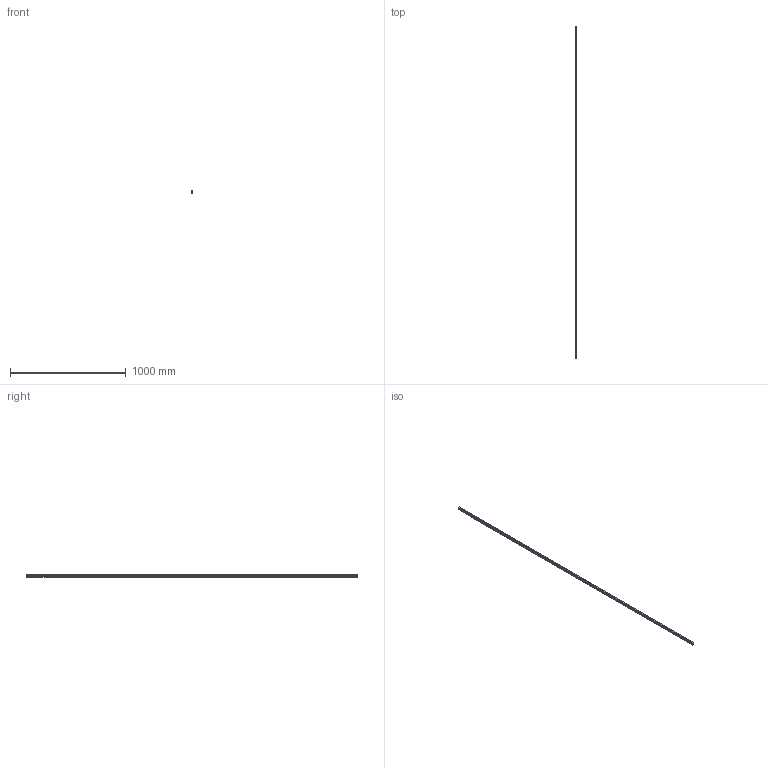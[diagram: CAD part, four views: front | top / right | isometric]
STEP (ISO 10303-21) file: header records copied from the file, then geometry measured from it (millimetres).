
FILE_DESCRIPTION (( 'STEP AP214' ), '1' );
FILE_NAME ('TPL-W-APC-523-U 15Oct2024.STEP', '2024-12-08T23:19:46', ( '' ), ( '' ), 'SwSTEP 2.0', 'SolidWorks 2023', '' );
FILE_SCHEMA (( 'AUTOMOTIVE_DESIGN' ));
Length unit declared in the file: millimetre
Products named in the file (19): Copy of Handle sub-assembly - simplified^Copy of TPGen2 handle keyed internal - simplified_TPL-W-APC-010 11Oct2024; Copy of TPL-036 Lock cylinder double key C4 3-5 PIN 55 (23-32)mm^TPL-W-APC-010 11Oct2024_Right; Copy of COV-115-A Cover A suit TPLGen2 standard range AU with hinge holes^TPL-W-APC-010 11Oct2024_1335mm; Copy of Adapter DnF - simplfied^TPL-W-APC-010 11Oct2024_26mm backset; Copy of Copy of LKC-531 Lock twinpoint transmission rod wood system^TPL-W-APC-010 11Oct2024_Standard Range 2891.7mm; Copy of COV-115-B Cover B suit TPLGen2 standard range AU with hinge holes^TPL-W-APC-010 11Oct2024_2870mm; Copy of TPLGen2 push rod - simplified^Copy of TPLGen2 lock body keyed assembly_TPL-W-APC-010 11Oct2024_Female thread M10; Copy of LKC-544 Bolt 8mm square stainless steel TPLGen2^TPL-W-APC-010 11Oct2024; Copy of LKC-531 Lock twinpoint transmission rod wood system^TPL-W-APC-010 11Oct2024_Standard Range (588.7mm); Copy of Escutcheon plate keyed internal 280mm - simplified^Copy of TPGen2 handle keyed internal - simplified_TPL-W-APC-010 11Oct2024; Copy of Adapter CnE - simplfied^TPL-W-APC-010 11Oct2024_26mm backset; Copy of Escutcheon plate keyed external 280mm - simplified^Copy of TPGen2 handle keyed external - simplified_TPL-W-APC-010 11Oct2024; TPL-W-APC-523-U 15Oct2024; Copy of TPLGen2 lock body keyed^Copy of TPLGen2 lock body keyed assembly_TPL-W-APC-010 11Oct2024; Copy of Handle sub-assembly - simplified^Copy of TPGen2 handle keyed external - simplified_TPL-W-APC-010 11Oct2024; Copy of COV-115-C Cover C suit TPLGen2 standard range AU^TPL-W-APC-010 11Oct2024; Copy of LKC-547 Spindle - simplified^Copy of TPGen2 handle keyed external - simplified_TPL-W-APC-010 11Oct2024_E - 19mm; Copy of LKC-547 Spindle - simplified^Copy of TPGen2 handle keyed internal - simplified_TPL-W-APC-010 11Oct2024_A - 11mm
Assembly tree (3 placements, depth 2):
  Copy of Handle sub-assembly - simplified^Copy of TPGen2 handle keyed internal - simplified_TPL-W-APC-010 11Oct2024
  Copy of TPL-036 Lock cylinder double key C4 3-5 PIN 55 (23-32)mm^TPL-W-APC-010 11Oct2024_Right
  Copy of COV-115-A Cover A suit TPLGen2 standard range AU with hinge holes^TPL-W-APC-010 11Oct2024_1335mm
  Copy of Adapter DnF - simplfied^TPL-W-APC-010 11Oct2024_26mm backset
  Copy of TPLGen2 push rod - simplified^Copy of TPLGen2 lock body keyed assembly_TPL-W-APC-010 11Oct2024_Female thread M10
Bounding box: 10.8 x 2870 x 21 mm (x, y, z)
Volume: 381510.8 mm3; surface area: 313222.7 mm2
Topology: 3 solids, 3 shells, 178 faces, 541 edges, 359 vertices
Faces by surface type: plane 82, cylinder 72, cone 22, sphere 2
Entity records: 6797 total; most frequent: CARTESIAN_POINT 1610, ORIENTED_EDGE 1082, DIRECTION 995, EDGE_CURVE 541, VERTEX_POINT 359, AXIS2_PLACEMENT_3D 352, VECTOR 291, LINE 291
